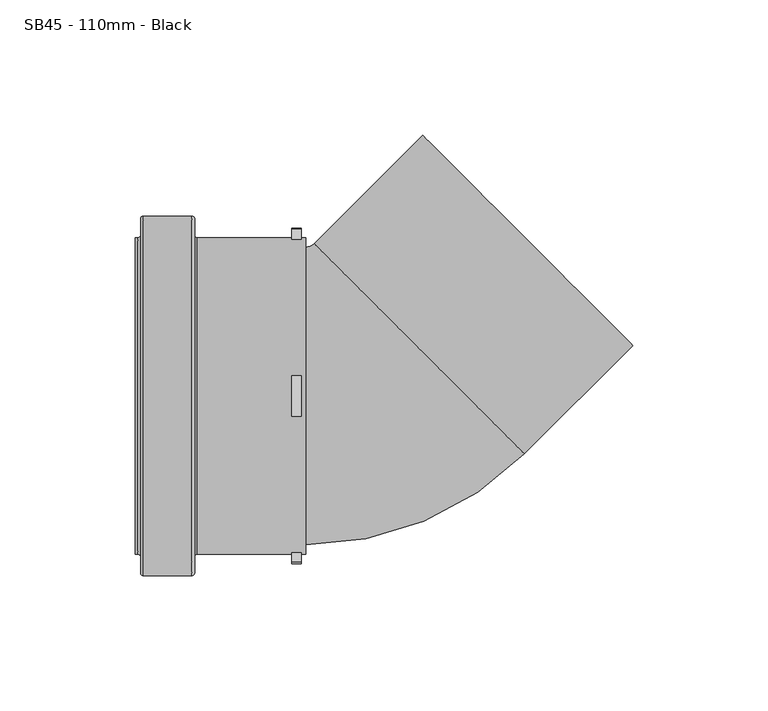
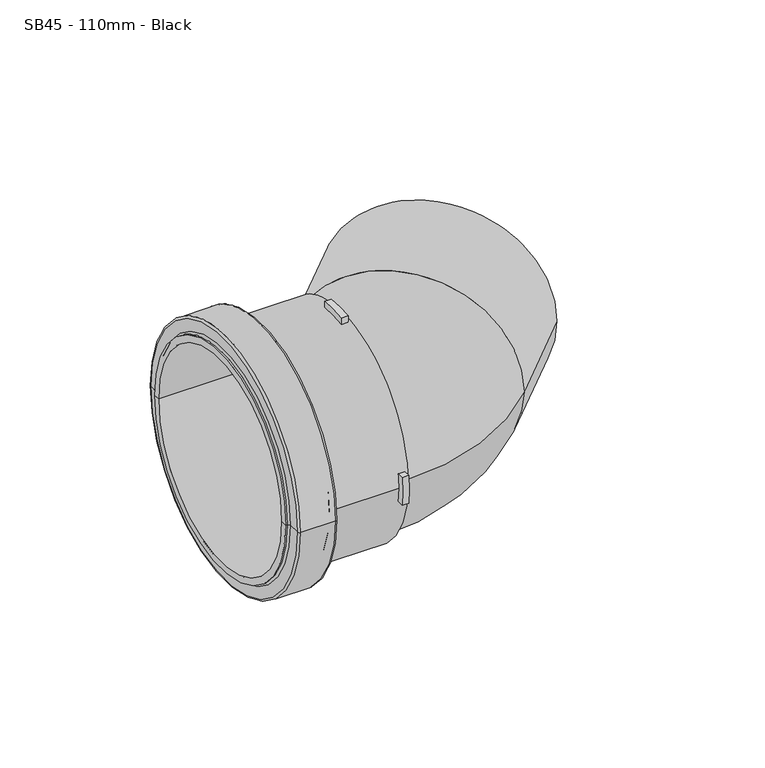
"""IFC4 building model written with IfcOpenShell, lengths in millimetres: pipe fitting geometry, MarleyPlumbingAndDrainage_PipeFitting_ShortRadiusBend45_SB35 : SB45 - 110mm - Black."""

from ifc_helpers import new_model, si_unit, point, frame, origin, place, context, project, spatial, polyline, circle_curve, ellipse_curve, trimmed, source, transform, mapped, element, save
from ifc_brep_helpers import plane_surface, cylinder_surface, revolved_surface, advanced_brep


def sb45_110mm_black_94220b11(model_context):
    return source(origin(), model_context, "Body", "AdvancedBrep", [
        advanced_brep(
        [(-81.412495, 66.5, 0.0), (-81.412495, -66.5, 0.0), (-80.412495, -65.5, 0.0), (-80.412495, 65.5, 0.0), (-99.412495, 66.5, 0.0), (-99.412495, -66.5, 0.0), (-100.412495, 65.5, 0.0), (-100.412495, -65.5, 0.0), (-100.412495, 59.5, 0.0), (-100.412495, -59.5, 0.0), (-101.412495, 58.5, 0.0), (-101.412495, -58.5, 0.0), (-102.412495, 55.0, 0.0), (-102.412495, -55.0, 0.0), (-102.412495, -58.5, 0.0), (-102.412495, 58.5, 0.0), (-39.412495, 55.0, 0.0), (-39.412495, -55.0, 0.0), (-39.412495, 58.5, 0.0), (-39.412495, -58.5, 0.0), (-40.912495, 58.5, 0.0), (-40.912495, 58.0172388, 7.5), (-44.412495, 58.0172388, 7.5), (-44.412495, 58.5, 0.0), (-79.412495, 58.5, 0.0), (-79.412495, -58.5, 0.0), (-44.412495, -58.5, 0.0), (-44.412495, -58.0172388, 7.5), (-40.912495, -58.0172388, 7.5), (-40.912495, -58.5, 0.0), (-44.412495, -7.5, 58.0172388), (-44.412495, 7.5, 58.0172388), (-40.912495, 7.5, 58.0172388), (-40.912495, -7.5, 58.0172388), (-40.912495, -58.0172388, -7.5), (-44.412495, -58.0172388, -7.5), (-44.412495, 58.0172388, -7.5), (-40.912495, 58.0172388, -7.5), (-44.412495, 7.5, -58.0172388), (-44.412495, -7.5, -58.0172388), (-40.912495, -7.5, -58.0172388), (-40.912495, 7.5, -58.0172388), (-80.412495, 59.5, 0.0), (-80.412495, -59.5, 0.0), (-44.412495, 61.5446992, 7.5), (-44.412495, 61.5446992, -7.5), (-44.412495, -7.5, 61.5446992), (-44.412495, 7.5, 61.5446992), (-44.412495, -61.5446992, -7.5), (-44.412495, -61.5446992, 7.5), (-44.412495, 7.5, -61.5446992), (-44.412495, -7.5, -61.5446992), (-40.912495, 61.5446992, -7.5), (-40.912495, 61.5446992, 7.5), (-40.912495, 7.5, 61.5446992), (-40.912495, -7.5, 61.5446992), (-40.912495, -61.5446992, 7.5), (-40.912495, -61.5446992, -7.5), (-40.912495, -7.5, -61.5446992), (-40.912495, 7.5, -61.5446992)],
        [
            (0, 1, circle_curve(frame((-81.412495, 0.0, 0.0), z_axis=(1.0, 0.0, 0.0), x_axis=(0.0, -1.0, 0.0)), 66.5)),
            (1, 2, circle_curve(frame((-81.412495, -65.5, 0.0), z_axis=(0.0, 0.0, 1.0), x_axis=(0.0, -1.0, 0.0)), 1.0)),
            (2, 3, circle_curve(frame((-80.412495, 0.0, 0.0), z_axis=(-1.0, 0.0, 0.0), x_axis=(0.0, -1.0, 0.0)), 65.5)),
            (3, 0, circle_curve(frame((-81.412495, 65.5, 0.0), z_axis=(0.0, 0.0, 1.0), x_axis=(0.0, 1.0, 0.0)), 1.0)),
            (1, 0, circle_curve(frame((-81.412495, 0.0, 0.0), z_axis=(1.0, 0.0, 0.0), x_axis=(0.0, -1.0, 0.0)), 66.5)),
            (3, 2, circle_curve(frame((-80.412495, 0.0, 0.0), z_axis=(-1.0, 0.0, 0.0), x_axis=(0.0, -1.0, 0.0)), 65.5)),
            (0, 4),
            (4, 5, circle_curve(frame((-99.412495, 0.0, 0.0), z_axis=(1.0, 0.0, 0.0), x_axis=(0.0, -1.0, 0.0)), 66.5)),
            (5, 1),
            (5, 4, circle_curve(frame((-99.412495, 0.0, 0.0), z_axis=(1.0, 0.0, 0.0), x_axis=(0.0, -1.0, 0.0)), 66.5)),
            (4, 6, circle_curve(frame((-99.412495, 65.5, 0.0), z_axis=(0.0, 0.0, 1.0), x_axis=(0.0, 1.0, 0.0)), 1.0)),
            (6, 7, circle_curve(frame((-100.412495, 0.0, 0.0), z_axis=(1.0, 0.0, 0.0), x_axis=(0.0, -1.0, 0.0)), 65.5)),
            (7, 5, circle_curve(frame((-99.412495, -65.5, 0.0), z_axis=(0.0, 0.0, 1.0), x_axis=(0.0, -1.0, 0.0)), 1.0)),
            (7, 6, circle_curve(frame((-100.412495, 0.0, 0.0), z_axis=(1.0, 0.0, 0.0), x_axis=(0.0, -1.0, 0.0)), 65.5)),
            (6, 8),
            (8, 9, circle_curve(frame((-100.412495, 0.0, 0.0), z_axis=(1.0, 0.0, 0.0), x_axis=(0.0, -1.0, 0.0)), 59.5)),
            (9, 7),
            (9, 8, circle_curve(frame((-100.412495, 0.0, 0.0), z_axis=(1.0, 0.0, 0.0), x_axis=(0.0, -1.0, 0.0)), 59.5)),
            (8, 10, circle_curve(frame((-101.412495, 59.5, 0.0), z_axis=(0.0, 0.0, -1.0), x_axis=(0.0, 1.0, 0.0)), 1.0)),
            (10, 11, circle_curve(frame((-101.412495, 0.0, 0.0), z_axis=(1.0, 0.0, 0.0), x_axis=(0.0, -1.0, 0.0)), 58.5)),
            (11, 9, circle_curve(frame((-101.412495, -59.5, 0.0), z_axis=(0.0, 0.0, -1.0), x_axis=(0.0, -1.0, 0.0)), 1.0)),
            (11, 10, circle_curve(frame((-101.412495, 0.0, 0.0), z_axis=(1.0, 0.0, 0.0), x_axis=(0.0, -1.0, 0.0)), 58.5)),
            (12, 13, circle_curve(frame((-102.412495, 0.0, 0.0), z_axis=(1.0, 0.0, 0.0), x_axis=(0.0, -1.0, 0.0)), 55.0)),
            (13, 14),
            (14, 15, circle_curve(frame((-102.412495, 0.0, 0.0), z_axis=(-1.0, 0.0, 0.0), x_axis=(0.0, -1.0, 0.0)), 58.5)),
            (15, 12),
            (13, 12, circle_curve(frame((-102.412495, 0.0, 0.0), z_axis=(1.0, 0.0, 0.0), x_axis=(0.0, -1.0, 0.0)), 55.0)),
            (15, 14, circle_curve(frame((-102.412495, 0.0, 0.0), z_axis=(-1.0, 0.0, 0.0), x_axis=(0.0, -1.0, 0.0)), 58.5)),
            (12, 16),
            (16, 17, circle_curve(frame((-39.412495, 0.0, 0.0), z_axis=(1.0, 0.0, 0.0), x_axis=(0.0, -1.0, 0.0)), 55.0)),
            (17, 13),
            (17, 16, circle_curve(frame((-39.412495, 0.0, 0.0), z_axis=(1.0, 0.0, 0.0), x_axis=(0.0, -1.0, 0.0)), 55.0)),
            (16, 18),
            (18, 19, circle_curve(frame((-39.412495, 0.0, 0.0), z_axis=(1.0, 0.0, 0.0), x_axis=(0.0, -1.0, 0.0)), 58.5)),
            (19, 17),
            (19, 18, circle_curve(frame((-39.412495, 0.0, 0.0), z_axis=(1.0, 0.0, 0.0), x_axis=(0.0, -1.0, 0.0)), 58.5)),
            (18, 20),
            (20, 21, circle_curve(frame((-40.912495, 0.0, 0.0), z_axis=(1.0, 0.0, 0.0), x_axis=(0.0, -1.0, 0.0)), 58.5)),
            (21, 22),
            (22, 23, circle_curve(frame((-44.412495, 0.0, 0.0), z_axis=(-1.0, 0.0, 0.0), x_axis=(0.0, -1.0, 0.0)), 58.5)),
            (23, 24),
            (24, 25, circle_curve(frame((-79.412495, 0.0, 0.0), z_axis=(1.0, 0.0, 0.0), x_axis=(0.0, -1.0, 0.0)), 58.5)),
            (25, 26),
            (26, 27, circle_curve(frame((-44.412495, 0.0, 0.0), z_axis=(-1.0, 0.0, 0.0), x_axis=(0.0, -1.0, 0.0)), 58.5)),
            (27, 28),
            (28, 29, circle_curve(frame((-40.912495, 0.0, 0.0), z_axis=(1.0, 0.0, 0.0), x_axis=(0.0, -1.0, 0.0)), 58.5)),
            (29, 19),
            (30, 31, circle_curve(frame((-44.412495, 0.0, 0.0), z_axis=(-1.0, 0.0, 0.0), x_axis=(0.0, -1.0, 0.0)), 58.5)),
            (31, 32),
            (32, 33, circle_curve(frame((-40.912495, 0.0, 0.0), z_axis=(1.0, 0.0, 0.0), x_axis=(0.0, -1.0, 0.0)), 58.5)),
            (33, 30),
            (29, 34, circle_curve(frame((-40.912495, 0.0, 0.0), z_axis=(1.0, 0.0, 0.0), x_axis=(0.0, -1.0, 0.0)), 58.5)),
            (34, 35),
            (35, 26, circle_curve(frame((-44.412495, 0.0, 0.0), z_axis=(-1.0, 0.0, 0.0), x_axis=(0.0, -1.0, 0.0)), 58.5)),
            (25, 24, circle_curve(frame((-79.412495, 0.0, 0.0), z_axis=(1.0, 0.0, 0.0), x_axis=(0.0, -1.0, 0.0)), 58.5)),
            (23, 36, circle_curve(frame((-44.412495, 0.0, 0.0), z_axis=(-1.0, 0.0, 0.0), x_axis=(0.0, -1.0, 0.0)), 58.5)),
            (36, 37),
            (37, 20, circle_curve(frame((-40.912495, 0.0, 0.0), z_axis=(1.0, 0.0, 0.0), x_axis=(0.0, -1.0, 0.0)), 58.5)),
            (38, 39, circle_curve(frame((-44.412495, 0.0, 0.0), z_axis=(-1.0, 0.0, 0.0), x_axis=(0.0, -1.0, 0.0)), 58.5)),
            (39, 40),
            (40, 41, circle_curve(frame((-40.912495, 0.0, 0.0), z_axis=(1.0, 0.0, 0.0), x_axis=(0.0, -1.0, 0.0)), 58.5)),
            (41, 38),
            (24, 42, circle_curve(frame((-79.412495, 59.5, 0.0), z_axis=(0.0, 0.0, -1.0), x_axis=(0.0, 1.0, 0.0)), 1.0)),
            (42, 43, circle_curve(frame((-80.412495, 0.0, 0.0), z_axis=(1.0, 0.0, 0.0), x_axis=(0.0, -1.0, 0.0)), 59.5)),
            (43, 25, circle_curve(frame((-79.412495, -59.5, 0.0), z_axis=(0.0, 0.0, -1.0), x_axis=(0.0, -1.0, 0.0)), 1.0)),
            (43, 42, circle_curve(frame((-80.412495, 0.0, 0.0), z_axis=(1.0, 0.0, 0.0), x_axis=(0.0, -1.0, 0.0)), 59.5)),
            (2, 43),
            (42, 3),
            (10, 15),
            (14, 11),
            (22, 44),
            (44, 45, circle_curve(frame((-44.412495, 0.0, 0.0), z_axis=(-1.0, 0.0, 0.0), x_axis=(0.0, -1.0, 0.0)), 62.0)),
            (45, 36),
            (30, 46),
            (46, 47, circle_curve(frame((-44.412495, 0.0, 0.0), z_axis=(-1.0, 0.0, 0.0), x_axis=(0.0, -1.0, 0.0)), 62.0)),
            (47, 31),
            (35, 48),
            (48, 49, circle_curve(frame((-44.412495, 0.0, 0.0), z_axis=(-1.0, 0.0, 0.0), x_axis=(0.0, -1.0, 0.0)), 62.0)),
            (49, 27),
            (38, 50),
            (50, 51, circle_curve(frame((-44.412495, 0.0, 0.0), z_axis=(-1.0, 0.0, 0.0), x_axis=(0.0, -1.0, 0.0)), 62.0)),
            (51, 39),
            (37, 52),
            (52, 53, circle_curve(frame((-40.912495, 0.0, 0.0), z_axis=(1.0, 0.0, 0.0), x_axis=(0.0, -1.0, 0.0)), 62.0)),
            (53, 21),
            (32, 54),
            (54, 55, circle_curve(frame((-40.912495, 0.0, 0.0), z_axis=(1.0, 0.0, 0.0), x_axis=(0.0, -1.0, 0.0)), 62.0)),
            (55, 33),
            (28, 56),
            (56, 57, circle_curve(frame((-40.912495, 0.0, 0.0), z_axis=(1.0, 0.0, 0.0), x_axis=(0.0, -1.0, 0.0)), 62.0)),
            (57, 34),
            (40, 58),
            (58, 59, circle_curve(frame((-40.912495, 0.0, 0.0), z_axis=(1.0, 0.0, 0.0), x_axis=(0.0, -1.0, 0.0)), 62.0)),
            (59, 41),
            (53, 44),
            (52, 45),
            (55, 46),
            (54, 47),
            (57, 48),
            (56, 49),
            (59, 50),
            (58, 51),
        ],
        [
            revolved_surface(trimmed(ellipse_curve(frame((-81.412495, -65.5, 0.0), z_axis=(0.0, 0.0, -1.0), x_axis=(0.0, -1.0, 0.0)), 1.0, 1.0), [point((-80.412495, -65.5, 0.0))], [point((-81.412495, -66.5, 0.0))], True, "CARTESIAN"), (-157.412495, 0.0, 0.0), (-1.0, 0.0, 0.0)),
            cylinder_surface(frame((-157.412495, 0.0, 0.0), z_axis=(-1.0, 0.0, 0.0), x_axis=(0.0, -1.0, 0.0)), 66.5),
            revolved_surface(trimmed(ellipse_curve(frame((-99.412495, -65.5, 0.0), z_axis=(0.0, 0.0, -1.0), x_axis=(0.0, -1.0, 0.0)), 1.0, 1.0), [point((-99.412495, -66.5, 0.0))], [point((-100.412495, -65.5, 0.0))], True, "CARTESIAN"), (-157.412495, 0.0, 0.0), (-1.0, 0.0, 0.0)),
            plane_surface(frame((-100.412495, 0.0, 0.0), z_axis=(-1.0, 0.0, 0.0), x_axis=(0.0, -1.0, 0.0))),
            revolved_surface(trimmed(ellipse_curve(frame((-101.412495, -59.5, 0.0), z_axis=(0.0, 0.0, 1.0), x_axis=(0.0, -1.0, 0.0)), 1.0, 1.0), [point((-100.412495, -59.5, 0.0))], [point((-101.412495, -58.5, 0.0))], True, "CARTESIAN"), (-157.412495, 0.0, 0.0), (-1.0, 0.0, 0.0)),
            plane_surface(frame((-102.412495, 0.0, 0.0), z_axis=(-1.0, 0.0, 0.0), x_axis=(0.0, -1.0, 0.0))),
            revolved_surface(polyline([(-102.412495, -55.0, 0.0), (-39.41249500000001, -55.0, 0.0)]), (-157.412495, 0.0, 0.0), (-1.0, 0.0, 0.0)),
            plane_surface(frame((-39.412495, 0.0, 0.0), z_axis=(1.0, 0.0, 0.0), x_axis=(0.0, -1.0, 0.0))),
            cylinder_surface(frame((-157.412495, 0.0, 0.0), z_axis=(-1.0, 0.0, 0.0), x_axis=(0.0, -1.0, 0.0)), 58.5),
            revolved_surface(trimmed(ellipse_curve(frame((-79.412495, -59.5, 0.0), z_axis=(0.0, 0.0, 1.0), x_axis=(0.0, -1.0, 0.0)), 1.0, 1.0), [point((-79.412495, -58.5, 0.0))], [point((-80.412495, -59.5, 0.0))], True, "CARTESIAN"), (-157.412495, 0.0, 0.0), (-1.0, 0.0, 0.0)),
            plane_surface(frame((-80.412495, 0.0, 0.0), z_axis=(1.0, 0.0, 0.0), x_axis=(0.0, -1.0, 0.0))),
            plane_surface(frame((-44.412495, -58.5, 0.0), z_axis=(-1.0, 0.0, 0.0), x_axis=(0.0, 0.0, -1.0))),
            plane_surface(frame((-40.912495, -58.5, 0.0), z_axis=(1.0, 0.0, 0.0), x_axis=(0.0, 0.0, 1.0))),
            plane_surface(frame((-44.412495, 58.0172388, 7.5), z_axis=(0.0, 0.0, 1.0), x_axis=(1.0, 0.0, 0.0))),
            cylinder_surface(frame((-40.912495, 0.0, 0.0), z_axis=(-1.0, 0.0, 0.0), x_axis=(0.0, -1.0, 0.0)), 62.0),
            plane_surface(frame((-44.412495, 61.5446992, -7.5), z_axis=(0.0, 0.0, -1.0), x_axis=(1.0, 0.0, 0.0))),
            plane_surface(frame((-44.412495, -7.5, 58.0172388), z_axis=(0.0, -1.0, 0.0), x_axis=(1.0, 0.0, 0.0))),
            cylinder_surface(frame((-39.412495, 0.0, 0.0), z_axis=(-1.0, 0.0, 0.0), x_axis=(0.0, -1.0, 0.0)), 62.0),
            plane_surface(frame((-44.412495, 7.5, 61.5446992), z_axis=(0.0, 1.0, 0.0), x_axis=(1.0, 0.0, 0.0))),
            plane_surface(frame((-44.412495, -58.0172388, -7.5), z_axis=(0.0, 0.0, -1.0), x_axis=(1.0, 0.0, 0.0))),
            plane_surface(frame((-44.412495, -61.5446992, 7.5), z_axis=(0.0, 0.0, 1.0), x_axis=(1.0, 0.0, 0.0))),
            plane_surface(frame((-44.412495, 7.5, -58.0172388), z_axis=(0.0, 1.0, 0.0), x_axis=(1.0, 0.0, 0.0))),
            plane_surface(frame((-44.412495, -7.5, -61.5446992), z_axis=(0.0, -1.0, 0.0), x_axis=(1.0, 0.0, 0.0))),
        ],
        [
            (0, [[1, 2, 3, 4]]),
            (0, [[-2, 5, -4, 6]]),
            (1, [[-1, 7, 8, 9]]),
            (1, [[-5, -9, 10, -7]]),
            (2, [[-8, 11, 12, 13]]),
            (2, [[-10, -13, 14, -11]]),
            (3, [[-12, 15, 16, 17]]),
            (3, [[-14, -17, 18, -15]]),
            (4, [[-16, 19, 20, 21]]),
            (4, [[-18, -21, 22, -19]]),
            (5, [[23, 24, 25, 26]]),
            (5, [[-24, 27, -26, 28]]),
            (6, [[-23, 29, 30, 31]]),
            (6, [[-27, -31, 32, -29]]),
            (7, [[-30, 33, 34, 35]]),
            (7, [[-32, -35, 36, -33]]),
            (8, [[-34, 37, 38, 39, 40, 41, 42, 43, 44, 45, 46, 47], [48, 49, 50, 51]]),
            (8, [[-36, -47, 52, 53, 54, -43, 55, -41, 56, 57, 58, -37], [59, 60, 61, 62]]),
            (9, [[-42, 63, 64, 65]]),
            (9, [[-55, -65, 66, -63]]),
            (10, [[-3, 67, -64, 68]]),
            (10, [[-6, -68, -66, -67]]),
            (8, [[-20, 69, -25, 70]]),
            (8, [[-22, -70, -28, -69]]),
            (11, [[71, 72, 73, -56, -40]]),
            (11, [[74, 75, 76, -48]]),
            (11, [[77, 78, 79, -44, -54]]),
            (11, [[80, 81, 82, -59]]),
            (12, [[83, 84, 85, -38, -58]]),
            (12, [[86, 87, 88, -50]]),
            (12, [[89, 90, 91, -52, -46]]),
            (12, [[92, 93, 94, -61]]),
            (13, [[-71, -39, -85, 95]]),
            (14, [[-72, -95, -84, 96]]),
            (15, [[-73, -96, -83, -57]]),
            (16, [[-74, -51, -88, 97]]),
            (17, [[-75, -97, -87, 98]]),
            (18, [[-76, -98, -86, -49]]),
            (19, [[-77, -53, -91, 99]]),
            (17, [[-78, -99, -90, 100]]),
            (20, [[-79, -100, -89, -45]]),
            (21, [[-80, -62, -94, 101]]),
            (17, [[-81, -101, -93, 102]]),
            (22, [[-82, -102, -92, -60]]),
        ],
    ),
        advanced_brep(
        [(-39.412495, -55.0, 0.0), (-39.412495, 55.0, 0.0), (-36.2305145, 56.3180195, 0.0), (41.5512314, -21.4637264, 0.0), (81.6441859, 18.629228, 0.0), (3.86244, 96.410974, 0.0)],
        [
            (0, 1, circle_curve(frame((-39.412495, 0.0, 0.0), z_axis=(-1.0, 0.0, 0.0), x_axis=(0.0, 1.0, 0.0)), 55.0)),
            (1, 0, circle_curve(frame((-39.412495, 0.0, 0.0), z_axis=(-1.0, 0.0, 0.0), x_axis=(0.0, 1.0, 0.0)), 55.0)),
            (2, 1, circle_curve(frame((-39.412495, 59.5, 0.0), z_axis=(0.0, 0.0, -1.0), x_axis=(0.0, -1.0, 0.0)), 4.5)),
            (0, 3, circle_curve(frame((-39.412495, 59.5, 0.0), z_axis=(0.0, 0.0, 1.0), x_axis=(0.0, -1.0, 0.0)), 114.5)),
            (3, 2, circle_curve(frame((2.6603584, 17.4271465, 0.0), z_axis=(-0.7071067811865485, -0.7071067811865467, 0.0), x_axis=(-0.7071067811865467, 0.7071067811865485, 0.0)), 55.0)),
            (2, 3, circle_curve(frame((2.6603584, 17.4271465, 0.0), z_axis=(-0.7071067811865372, -0.7071067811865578, 0.0), x_axis=(-0.7071067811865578, 0.7071067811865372, 0.0)), 55.0)),
            (4, 5, circle_curve(frame((42.7533129, 57.520101, 0.0), z_axis=(0.707106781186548, 0.707106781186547, 0.0), x_axis=(-0.707106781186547, 0.707106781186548, 0.0)), 55.0)),
            (5, 4, circle_curve(frame((42.7533129, 57.520101, 0.0), z_axis=(0.707106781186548, 0.707106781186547, 0.0), x_axis=(-0.707106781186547, 0.707106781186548, 0.0)), 55.0)),
            (3, 4),
            (5, 2),
        ],
        [
            plane_surface(frame((-39.412495, 0.0, 0.0), z_axis=(-1.0, 0.0, 0.0), x_axis=(0.0, 0.0, 1.0))),
            revolved_surface(trimmed(ellipse_curve(frame((-39.412495, 0.0, 0.0), z_axis=(-1.0, 0.0, 0.0), x_axis=(0.0, 1.0, 0.0)), 55.0, 55.0), [point((-39.412495, -55.0, 0.0))], [point((-39.412495, 55.0, 0.0))], True, "CARTESIAN"), (-39.412495, 59.5, 0.0), (0.0, 0.0, 1.0)),
            revolved_surface(trimmed(ellipse_curve(frame((-39.412495, 0.0, 0.0), z_axis=(-1.0, 0.0, 0.0), x_axis=(0.0, 1.0, 0.0)), 55.0, 55.0), [point((-39.412495, 55.0, 0.0))], [point((-39.412495, -55.0, 0.0))], True, "CARTESIAN"), (-39.412495, 59.5, 0.0), (0.0, 0.0, 1.0)),
            plane_surface(frame((42.7533129, 57.520101, 0.0), z_axis=(0.707106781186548, 0.707106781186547, 0.0), x_axis=(0.0, 0.0, 1.0))),
            cylinder_surface(frame((2.6603584, 17.4271465, 0.0), z_axis=(-0.707106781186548, -0.707106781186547, 0.0), x_axis=(-0.707106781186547, 0.707106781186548, 0.0)), 55.0),
        ],
        [
            (0, [[1, 2]]),
            (1, [[3, -1, 4, 5]]),
            (2, [[-4, -2, -3, 6]]),
            (3, [[7, 8]]),
            (4, [[-5, 9, -8, 10]]),
            (4, [[-6, -10, -7, -9]]),
        ],
    ),
    ])


if __name__ == "__main__":
    model = new_model("IFC4")
    model_context = context("Model", 3, world=origin())
    ifc_project = project(units=[si_unit("LENGTHUNIT", "METRE", prefix="MILLI")], contexts=[model_context])
    site = spatial("IfcSite", under=ifc_project)
    building = spatial("IfcBuilding", under=site)
    placement = place(None, origin())
    sb45_110mm_black_shape = sb45_110mm_black_94220b11(model_context)
    element("IfcPipeFitting", 1, ObjectType="MarleyPlumbingAndDrainage_PipeFitting_ShortRadiusBend45_SB35 : SB45 - 110mm - Black", at=placement, inside=building, context=model_context, shape_type="MappedRepresentation", body=[
        mapped(sb45_110mm_black_shape, transform((0.0, 0.0, 0.0), x_axis=(1.0, 0.0, 0.0), y_axis=(0.0, 1.0, 0.0), z_axis=(0.0, 0.0, 1.0))),
    ])
    save(model, "model.ifc")
